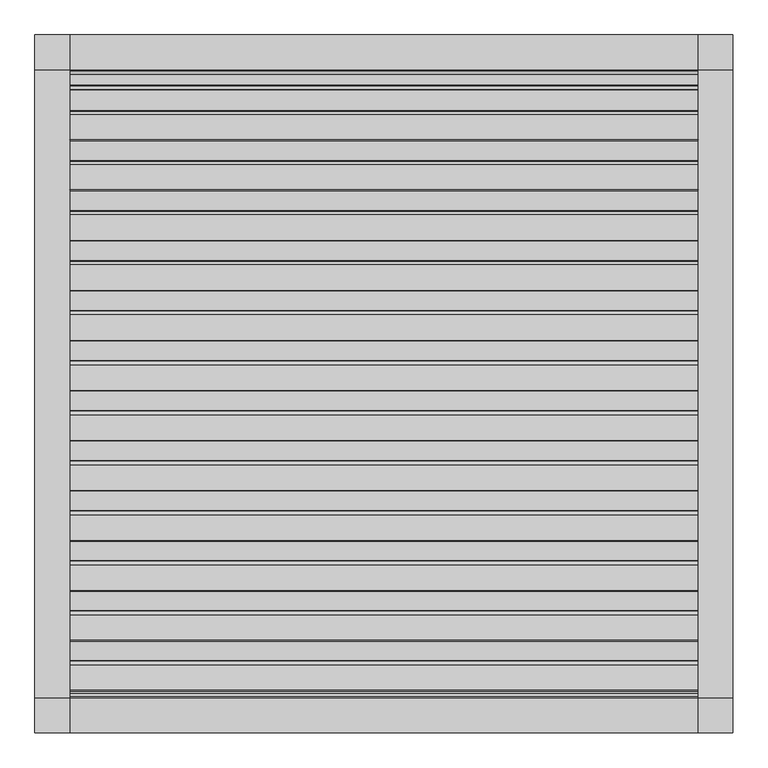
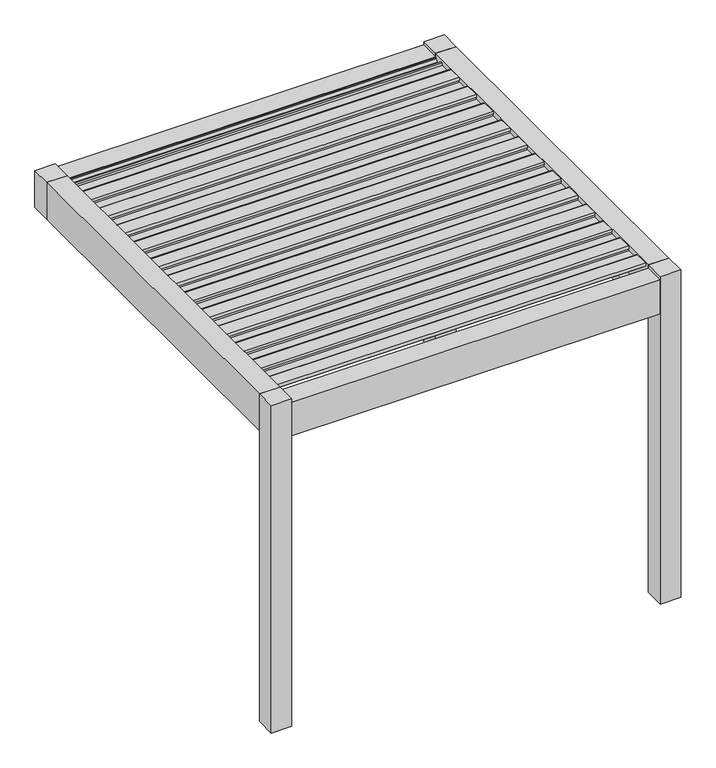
"""IFC4 building model written with IfcOpenShell, lengths in millimetres: proxy geometry, Renson_Amani_Patio_Cover : Renson_Amani_Patio_Cover."""

import ifcopenshell
import ifcopenshell.guid

model = None  # the IFC model being written
_history = None  # IfcOwnerHistory: only IFC2X3 demands one
_inside = {}  # id of a spatial element -> (the spatial element, [elements in it])
_under = {}  # id of a project, library or spatial element -> (it, [spatial elements below it])
_declared = {}  # id of a project -> (the project, [libraries it declares])
_typed = {}  # id of a type object -> (the type object, [elements of that type])
_made_of = {}  # id of a material, layer set ... -> (it, [elements and type objects made of it])


def new_model(schema):
    """Start an empty IFC model of exactly this schema.

    Asked for "IFC4X3", IfcOpenShell would pick the latest addendum, in which some entities
    have other attributes; the version numbers below select the first issue.
    IFC2X3 requires an IfcOwnerHistory on every rooted entity: one is made here for all.
    """
    global model, _history
    if schema == "IFC4X3":
        model = ifcopenshell.file(schema_version=(4, 3, 0, 0))
    else:
        model = ifcopenshell.file(schema=schema)
    _inside.clear()
    _under.clear()
    _declared.clear()
    _typed.clear()
    _made_of.clear()
    _history = None
    if model.schema == "IFC2X3":
        org = make("IfcOrganization", Name="unknown")
        user = make(
            "IfcPersonAndOrganization",
            ThePerson=make("IfcPerson", FamilyName="unknown"),
            TheOrganization=org,
        )
        app = make(
            "IfcApplication",
            ApplicationDeveloper=org,
            Version="unknown",
            ApplicationFullName="unknown",
            ApplicationIdentifier="unknown",
        )
        _history = make(
            "IfcOwnerHistory",
            OwningUser=user,
            OwningApplication=app,
            ChangeAction="ADDED",
            CreationDate=0,
        )
    return model


def make(cls, **values):
    """One entity of the class cls with the attributes given. An attribute that is None is left unset."""
    return model.create_entity(
        cls, **{name: value for name, value in values.items() if value is not None}
    )


def rooted(cls, **values):
    """An entity with a GlobalId (a new one), such as an element, a storey or a relation."""
    return make(cls, GlobalId=ifcopenshell.guid.new(), OwnerHistory=_history, **values)


def si_unit(unit_type, name, prefix=None):
    """IfcSIUnit, for example si_unit("LENGTHUNIT", "METRE", prefix="MILLI")."""
    return make("IfcSIUnit", UnitType=unit_type, Prefix=prefix, Name=name)


def assignment(units):
    """IfcUnitAssignment: the units of a project."""
    return None if units is None else make("IfcUnitAssignment", Units=units)


def point(xyz):
    """IfcCartesianPoint."""
    return None if xyz is None else make("IfcCartesianPoint", Coordinates=xyz)


def direction(xyz):
    """IfcDirection."""
    return None if xyz is None else make("IfcDirection", DirectionRatios=xyz)


def frame(location, z_axis=None, x_axis=None):
    """IfcAxis2Placement3D, a coordinate frame: its origin and axes. An axis left out is left unset."""
    return make(
        "IfcAxis2Placement3D",
        Location=point(location),
        Axis=direction(z_axis),
        RefDirection=direction(x_axis),
    )


def frame_2d(location, x_axis=None):
    """IfcAxis2Placement2D, a coordinate frame in the plane: its origin and x axis."""
    return make(
        "IfcAxis2Placement2D", Location=point(location), RefDirection=direction(x_axis)
    )


def origin():
    """The frame at (0, 0, 0) with its axes left unset."""
    return frame((0.0, 0.0, 0.0))


def origin_with_axes():
    """The frame at (0, 0, 0) with the z axis (0, 0, 1) and the x axis (1, 0, 0) written out."""
    return frame((0.0, 0.0, 0.0), z_axis=(0.0, 0.0, 1.0), x_axis=(1.0, 0.0, 0.0))


def place(relative_to, where):
    """IfcLocalPlacement: puts the frame where relative to a parent placement (None: the world)."""
    return make(
        "IfcLocalPlacement", PlacementRelTo=relative_to, RelativePlacement=where
    )


def context(
    kind, dimensions, precision=None, world=None, true_north=None, identifier=None
):
    """IfcGeometricRepresentationContext, for example the 3D "Model" context."""
    return make(
        "IfcGeometricRepresentationContext",
        ContextIdentifier=identifier,
        ContextType=kind,
        CoordinateSpaceDimension=dimensions,
        Precision=precision,
        WorldCoordinateSystem=world,
        TrueNorth=true_north,
    )


def project(units=None, contexts=None):
    """IfcProject with its units and contexts."""
    return rooted(
        "IfcProject",
        Name="project",
        RepresentationContexts=contexts,
        UnitsInContext=assignment(units),
    )


def spatial(cls, under=None, at=None, **own):
    """A site, building, storey or space (cls), placed at a placement, below another one or the project."""
    s = rooted(cls, ObjectPlacement=at, **own)
    if under is not None:
        _under.setdefault(under.id(), (under, []))[1].append(s)
    return s


def polyline(points):
    """IfcPolyline through the points."""
    return make("IfcPolyline", Points=[point(p) for p in points])


def circle_curve(where, radius):
    """IfcCircle in the frame where."""
    return make("IfcCircle", Position=where, Radius=radius)


def trimmed(basis, trim1, trim2, sense, master):
    """IfcTrimmedCurve: the piece of a basis curve between two trims."""
    return make(
        "IfcTrimmedCurve",
        BasisCurve=basis,
        Trim1=trim1,
        Trim2=trim2,
        SenseAgreement=sense,
        MasterRepresentation=master,
    )


def segment(curve, same_sense, transition):
    """IfcCompositeCurveSegment."""
    return make(
        "IfcCompositeCurveSegment",
        Transition=transition,
        SameSense=same_sense,
        ParentCurve=curve,
    )


def composite_curve(segments, self_intersect=None):
    """IfcCompositeCurve: segments joined end to end."""
    return make("IfcCompositeCurve", Segments=segments, SelfIntersect=self_intersect)


def outline(outer, holes=None, kind="AREA"):
    """IfcArbitraryClosedProfileDef: a profile drawn as a closed curve; with holes, ...WithVoids."""
    if holes is None:
        return make("IfcArbitraryClosedProfileDef", ProfileType=kind, OuterCurve=outer)
    return make(
        "IfcArbitraryProfileDefWithVoids",
        ProfileType=kind,
        OuterCurve=outer,
        InnerCurves=holes,
    )


def extrude(swept, where, along, depth):
    """IfcExtrudedAreaSolid: the profile swept, set in the frame where, extruded along a direction by depth."""
    return make(
        "IfcExtrudedAreaSolid",
        SweptArea=swept,
        Position=where,
        ExtrudedDirection=direction(along),
        Depth=depth,
    )


def shape(context_of_items, identifier, shape_type, items):
    """IfcShapeRepresentation: the items that make up one representation, for example the "Body"."""
    return make(
        "IfcShapeRepresentation",
        ContextOfItems=context_of_items,
        RepresentationIdentifier=identifier,
        RepresentationType=shape_type,
        Items=items,
    )


def source(mapping_origin, context_of_items, identifier, shape_type, items):
    """IfcRepresentationMap: a shape defined once, which mapped items show again and again."""
    return make(
        "IfcRepresentationMap",
        MappingOrigin=mapping_origin,
        MappedRepresentation=shape(context_of_items, identifier, shape_type, items),
    )


def transform(
    local_origin,
    x_axis=None,
    y_axis=None,
    z_axis=None,
    scale=None,
    scale2=None,
    scale3=None,
    uniform=True,
):
    """IfcCartesianTransformationOperator3D, or its non-uniform kind. x_axis, y_axis, z_axis: its Axis1, 2, 3."""
    if uniform:
        return make(
            "IfcCartesianTransformationOperator3D",
            Axis1=direction(x_axis),
            Axis2=direction(y_axis),
            LocalOrigin=point(local_origin),
            Scale=scale,
            Axis3=direction(z_axis),
        )
    return make(
        "IfcCartesianTransformationOperator3DnonUniform",
        Axis1=direction(x_axis),
        Axis2=direction(y_axis),
        LocalOrigin=point(local_origin),
        Scale=scale,
        Axis3=direction(z_axis),
        Scale2=scale2,
        Scale3=scale3,
    )


def mapped(mapping_source, mapping_target):
    """IfcMappedItem: shows the shape of a source again, moved by a transform."""
    return make(
        "IfcMappedItem", MappingSource=mapping_source, MappingTarget=mapping_target
    )


def made_of(thing, what):
    """Note that an element or type object is made of a material, layer set ...; save() writes the relation."""
    if what is not None:
        _made_of.setdefault(what.id(), (what, []))[1].append(thing)
    return thing


def element(
    cls,
    number,
    at=None,
    inside=None,
    cuts=None,
    type_object=None,
    material=None,
    context=None,
    identifier="Body",
    shape_type=None,
    held_by="IfcProductDefinitionShape",
    body=None,
    shapes=None,
    **own,
):
    """One element of the class cls, such as IfcWall. Its Tag is "e" and its number.

    at: its placement. inside: the storey or other place that contains it. cuts: it is an
    opening in that element (IfcRelVoidsElement). A single representation is given by context,
    identifier, shape_type and body (its items); several are given by shapes. held_by: the class
    of the entity that holds the representations. save() writes the other relations.
    """
    e = rooted(cls, Tag="e%d" % number, ObjectPlacement=at, **own)
    if body is not None:
        shapes = [shape(context, identifier, shape_type, body)]
    if shapes is not None:
        e.Representation = make(held_by, Representations=shapes)
    if inside is not None:
        _inside.setdefault(inside.id(), (inside, []))[1].append(e)
    if cuts is not None:
        rooted(
            "IfcRelVoidsElement", RelatingBuildingElement=cuts, RelatedOpeningElement=e
        )
    if type_object is not None:
        _typed.setdefault(type_object.id(), (type_object, []))[1].append(e)
    return made_of(e, material)


def aggregate(whole, parts):
    """IfcRelAggregates: a whole, such as a stair, and the parts it consists of."""
    return rooted("IfcRelAggregates", RelatingObject=whole, RelatedObjects=parts)


def save(model, path):
    """Write the relations noted so far, then the file.

    IfcRelAggregates (storeys below a building ...), IfcRelContainedInSpatialStructure (elements
    in a storey), IfcRelDefinesByType, IfcRelAssociatesMaterial and IfcRelDeclares: one each for
    every whole, place, type object, material and project.
    """
    for whole, parts in _under.values():
        aggregate(whole, parts)
    for where, things in _inside.values():
        rooted(
            "IfcRelContainedInSpatialStructure",
            RelatedElements=things,
            RelatingStructure=where,
        )
    for kind, things in _typed.values():
        rooted("IfcRelDefinesByType", RelatedObjects=things, RelatingType=kind)
    for what, things in _made_of.values():
        rooted("IfcRelAssociatesMaterial", RelatedObjects=things, RelatingMaterial=what)
    for by, libraries in _declared.values():
        rooted("IfcRelDeclares", RelatingContext=by, RelatedDefinitions=libraries)
    model.write(path)


def generic_models_59e5db6b(model_context):
    return source(origin(), model_context, "Body", "SweptSolid", [
        extrude(outline(composite_curve([segment(polyline([(-1073.7289238, 2483.35), (-1076.1490335, 2511.01198), (-1104.984284, 2512.3970364), (-1101.5469529, 2531.8911096), (-991.549838, 2526.6075693)]), True, "CONTINUOUS"), segment(trimmed(circle_curve(frame_2d((-992.26951, 2511.6248435)), 15.0), [point((-991.549838, 2526.6075693))], [point((-977.4973937, 2514.2295662))], False, "CARTESIAN"), True, "CONTINUOUS"), segment(polyline([(-977.4973937, 2514.2295662), (-974.1067023, 2495.0), (-886.3709263, 2495.0), (-883.3594689, 2512.0788237), (-868.0824984, 2511.3450182), (-865.6332517, 2483.35), (-1073.7289238, 2483.35)]), True, "CONTINUOUS")], self_intersect=False)), frame((-1350.0, 0.0, 0.0), z_axis=(1.0, 0.0, 0.0), x_axis=(0.0, 1.0, 0.0)), (0.0, 0.0, 1.0), 2700.0),
        extrude(outline(composite_curve([segment(polyline([(-858.7132078, 2483.35), (-861.1333174, 2511.01198), (-889.9685679, 2512.3970364), (-886.5312368, 2531.8911096), (-776.534122, 2526.6075693)]), True, "CONTINUOUS"), segment(trimmed(circle_curve(frame_2d((-777.2537939, 2511.6248435)), 15.0), [point((-776.534122, 2526.6075693))], [point((-762.4816776, 2514.2295662))], False, "CARTESIAN"), True, "CONTINUOUS"), segment(polyline([(-762.4816776, 2514.2295662), (-759.0909863, 2495.0), (-671.3552102, 2495.0), (-668.3437528, 2512.0788237), (-653.0667824, 2511.3450182), (-650.6175356, 2483.35), (-858.7132078, 2483.35)]), True, "CONTINUOUS")], self_intersect=False)), frame((-1350.0, 0.0, 0.0), z_axis=(1.0, 0.0, 0.0), x_axis=(0.0, 1.0, 0.0)), (0.0, 0.0, 1.0), 2700.0),
        extrude(outline(composite_curve([segment(polyline([(-643.6974917, 2483.35), (-646.1176014, 2511.01198), (-674.9528519, 2512.3970364), (-671.5155208, 2531.8911096), (-561.5184059, 2526.6075693)]), True, "CONTINUOUS"), segment(trimmed(circle_curve(frame_2d((-562.2380779, 2511.6248435)), 15.0), [point((-561.5184059, 2526.6075693))], [point((-547.4659616, 2514.2295662))], False, "CARTESIAN"), True, "CONTINUOUS"), segment(polyline([(-547.4659616, 2514.2295662), (-544.0752702, 2495.0), (-456.3394942, 2495.0), (-453.3280368, 2512.0788237), (-438.0510663, 2511.3450182), (-435.6018196, 2483.35), (-643.6974917, 2483.35)]), True, "CONTINUOUS")], self_intersect=False)), frame((-1350.0, 0.0, 0.0), z_axis=(1.0, 0.0, 0.0), x_axis=(0.0, 1.0, 0.0)), (0.0, 0.0, 1.0), 2700.0),
        extrude(outline(composite_curve([segment(polyline([(-428.6817757, 2483.35), (-431.1018854, 2511.01198), (-459.9371358, 2512.3970364), (-456.4998047, 2531.8911096), (-346.5026899, 2526.6075693)]), True, "CONTINUOUS"), segment(trimmed(circle_curve(frame_2d((-347.2223618, 2511.6248435)), 15.0), [point((-346.5026899, 2526.6075693))], [point((-332.4502455, 2514.2295662))], False, "CARTESIAN"), True, "CONTINUOUS"), segment(polyline([(-332.4502455, 2514.2295662), (-329.0595542, 2495.0), (-241.3237782, 2495.0), (-238.3123207, 2512.0788237), (-223.0353503, 2511.3450182), (-220.5861035, 2483.35), (-428.6817757, 2483.35)]), True, "CONTINUOUS")], self_intersect=False)), frame((-1350.0, 0.0, 0.0), z_axis=(1.0, 0.0, 0.0), x_axis=(0.0, 1.0, 0.0)), (0.0, 0.0, 1.0), 2700.0),
        extrude(outline(composite_curve([segment(polyline([(-213.6660597, 2483.35), (-216.0861693, 2511.01198), (-244.9214198, 2512.3970364), (-241.4840887, 2531.8911096), (-131.4869738, 2526.6075693)]), True, "CONTINUOUS"), segment(trimmed(circle_curve(frame_2d((-132.2066458, 2511.6248435)), 15.0), [point((-131.4869738, 2526.6075693))], [point((-117.4345295, 2514.2295662))], False, "CARTESIAN"), True, "CONTINUOUS"), segment(polyline([(-117.4345295, 2514.2295662), (-114.0438381, 2495.0), (-26.3080621, 2495.0), (-23.2966047, 2512.0788237), (-8.0196342, 2511.3450182), (-5.5703875, 2483.35), (-213.6660597, 2483.35)]), True, "CONTINUOUS")], self_intersect=False)), frame((-1350.0, 0.0, 0.0), z_axis=(1.0, 0.0, 0.0), x_axis=(0.0, 1.0, 0.0)), (0.0, 0.0, 1.0), 2700.0),
        extrude(outline(composite_curve([segment(polyline([(1.3496564, 2483.35), (-1.0704533, 2511.01198), (-29.9057037, 2512.3970364), (-26.4683726, 2531.8911096), (83.5287422, 2526.6075693)]), True, "CONTINUOUS"), segment(trimmed(circle_curve(frame_2d((82.8090703, 2511.6248435)), 15.0), [point((83.5287422, 2526.6075693))], [point((97.5811866, 2514.2295662))], False, "CARTESIAN"), True, "CONTINUOUS"), segment(polyline([(97.5811866, 2514.2295662), (100.9718779, 2495.0), (188.7076539, 2495.0), (191.7191114, 2512.0788237), (206.9960818, 2511.3450182), (209.4453286, 2483.35), (1.3496564, 2483.35)]), True, "CONTINUOUS")], self_intersect=False)), frame((-1350.0, 0.0, 0.0), z_axis=(1.0, 0.0, 0.0), x_axis=(0.0, 1.0, 0.0)), (0.0, 0.0, 1.0), 2700.0),
        extrude(outline(composite_curve([segment(polyline([(216.3653724, 2483.35), (213.9452628, 2511.01198), (185.1100123, 2512.3970364), (188.5473434, 2531.8911096), (298.5444582, 2526.6075693)]), True, "CONTINUOUS"), segment(trimmed(circle_curve(frame_2d((297.8247863, 2511.6248435)), 15.0), [point((298.5444582, 2526.6075693))], [point((312.5969026, 2514.2295662))], False, "CARTESIAN"), True, "CONTINUOUS"), segment(polyline([(312.5969026, 2514.2295662), (315.987594, 2495.0), (403.72337, 2495.0), (406.7348274, 2512.0788237), (422.0117979, 2511.3450182), (424.4610446, 2483.35), (216.3653724, 2483.35)]), True, "CONTINUOUS")], self_intersect=False)), frame((-1350.0, 0.0, 0.0), z_axis=(1.0, 0.0, 0.0), x_axis=(0.0, 1.0, 0.0)), (0.0, 0.0, 1.0), 2700.0),
        extrude(outline(composite_curve([segment(polyline([(431.3810885, 2483.35), (428.9609788, 2511.01198), (400.1257284, 2512.3970364), (403.5630594, 2531.8911096), (513.5601743, 2526.6075693)]), True, "CONTINUOUS"), segment(trimmed(circle_curve(frame_2d((512.8405024, 2511.6248435)), 15.0), [point((513.5601743, 2526.6075693))], [point((527.6126187, 2514.2295662))], False, "CARTESIAN"), True, "CONTINUOUS"), segment(polyline([(527.6126187, 2514.2295662), (531.00331, 2495.0), (618.739086, 2495.0), (621.7505434, 2512.0788237), (637.0275139, 2511.3450182), (639.4767606, 2483.35), (431.3810885, 2483.35)]), True, "CONTINUOUS")], self_intersect=False)), frame((-1350.0, 0.0, 0.0), z_axis=(1.0, 0.0, 0.0), x_axis=(0.0, 1.0, 0.0)), (0.0, 0.0, 1.0), 2700.0),
        extrude(outline(composite_curve([segment(polyline([(646.3968045, 2483.35), (643.9766949, 2511.01198), (615.1414444, 2512.3970364), (618.5787755, 2531.8911096), (728.5758903, 2526.6075693)]), True, "CONTINUOUS"), segment(trimmed(circle_curve(frame_2d((727.8562184, 2511.6248435)), 15.0), [point((728.5758903, 2526.6075693))], [point((742.6283347, 2514.2295662))], False, "CARTESIAN"), True, "CONTINUOUS"), segment(polyline([(742.6283347, 2514.2295662), (746.019026, 2495.0), (833.7548021, 2495.0), (836.7662595, 2512.0788237), (852.04323, 2511.3450182), (854.4924767, 2483.35), (646.3968045, 2483.35)]), True, "CONTINUOUS")], self_intersect=False)), frame((-1350.0, 0.0, 0.0), z_axis=(1.0, 0.0, 0.0), x_axis=(0.0, 1.0, 0.0)), (0.0, 0.0, 1.0), 2700.0),
        extrude(outline(composite_curve([segment(polyline([(861.4125206, 2483.35), (858.9924109, 2511.01198), (830.1571605, 2512.3970364), (833.5944915, 2531.8911096), (943.5916064, 2526.6075693)]), True, "CONTINUOUS"), segment(trimmed(circle_curve(frame_2d((942.8719345, 2511.6248435)), 15.0), [point((943.5916064, 2526.6075693))], [point((957.6440508, 2514.2295662))], False, "CARTESIAN"), True, "CONTINUOUS"), segment(polyline([(957.6440508, 2514.2295662), (961.0347421, 2495.0), (1048.7705181, 2495.0), (1051.7819755, 2512.0788237), (1067.058946, 2511.3450182), (1069.5081927, 2483.35), (861.4125206, 2483.35)]), True, "CONTINUOUS")], self_intersect=False)), frame((-1350.0, 0.0, 0.0), z_axis=(1.0, 0.0, 0.0), x_axis=(0.0, 1.0, 0.0)), (0.0, 0.0, 1.0), 2700.0),
        extrude(outline(composite_curve([segment(polyline([(-1288.7446399, 2483.35), (-1291.1647495, 2511.01198), (-1320.0, 2512.3970364), (-1316.5626689, 2531.8911096), (-1206.5655541, 2526.6075693)]), True, "CONTINUOUS"), segment(trimmed(circle_curve(frame_2d((-1207.285226, 2511.6248435)), 15.0), [point((-1206.5655541, 2526.6075693))], [point((-1192.5131097, 2514.2295662))], False, "CARTESIAN"), True, "CONTINUOUS"), segment(polyline([(-1192.5131097, 2514.2295662), (-1189.1224184, 2495.0), (-1101.3866423, 2495.0), (-1098.3751849, 2512.0788237), (-1083.0982144, 2511.3450182), (-1080.6489677, 2483.35), (-1288.7446399, 2483.35)]), True, "CONTINUOUS")], self_intersect=False)), frame((-1350.0, 0.0, 0.0), z_axis=(1.0, 0.0, 0.0), x_axis=(0.0, 1.0, 0.0)), (0.0, 0.0, 1.0), 2700.0),
        extrude(outline(composite_curve([segment(polyline([(1076.4282366, 2483.35), (1074.008127, 2511.01198), (1045.1728765, 2512.3970364), (1048.6102076, 2531.8911096), (1158.6073224, 2526.6075693)]), True, "CONTINUOUS"), segment(trimmed(circle_curve(frame_2d((1157.8876505, 2511.6248435)), 15.0), [point((1158.6073224, 2526.6075693))], [point((1172.6597668, 2514.2295662))], False, "CARTESIAN"), True, "CONTINUOUS"), segment(polyline([(1172.6597668, 2514.2295662), (1176.0504581, 2495.0), (1263.7862342, 2495.0), (1266.7976916, 2512.0788237), (1282.0746621, 2511.3450182), (1284.5239088, 2483.35), (1076.4282366, 2483.35)]), True, "CONTINUOUS")], self_intersect=False)), frame((-1350.0, 0.0, 0.0), z_axis=(1.0, 0.0, 0.0), x_axis=(0.0, 1.0, 0.0)), (0.0, 0.0, 1.0), 2700.0),
        extrude(outline(polyline([(-1350.0, 1500.0), (-1350.0, 1350.0), (-1500.0, 1350.0), (-1500.0, 1500.0), (-1350.0, 1500.0)])), frame((0.0, 0.0, 2250.0), z_axis=(0.0, 0.0, 1.0), x_axis=(1.0, 0.0, 0.0)), (0.0, 0.0, 1.0), 285.0),
        extrude(outline(polyline([(1500.0, -1350.0), (1500.0, -1500.0), (1350.0, -1500.0), (1350.0, -1350.0), (1500.0, -1350.0)])), origin_with_axes(), (0.0, 0.0, 1.0), 2535.0),
        extrude(outline(polyline([(1500.0, 1500.0), (1500.0, 1350.0), (1350.0, 1350.0), (1350.0, 1500.0), (1500.0, 1500.0)])), origin_with_axes(), (0.0, 0.0, 1.0), 2535.0),
        extrude(outline(polyline([(-1350.0, -1350.0), (-1350.0, -1500.0), (-1500.0, -1500.0), (-1500.0, -1350.0), (-1350.0, -1350.0)])), origin_with_axes(), (0.0, 0.0, 1.0), 2535.0),
        extrude(outline(polyline([(1350.0, 2466.6559373), (1290.0, 2466.6559373), (1286.2487113, 2480.6555802), (1329.5940945, 2480.6555802), (1345.0, 2496.400763), (1345.0, 2504.2449277), (1350.0, 2504.6823598), (1350.0, 2466.6559373)])), frame((-1350.0, 0.0, 0.0), z_axis=(1.0, 0.0, 0.0), x_axis=(0.0, 1.0, 0.0)), (0.0, 0.0, 1.0), 2700.0),
        extrude(outline(polyline([(-1350.0, 2510.0), (-1350.0, 2479.6823598), (-1345.0, 2479.2449277), (-1345.0, 2471.400763), (-1329.2544156, 2455.6555802), (-1319.9090324, 2455.6555802), (-1323.6603211, 2441.6559373), (-1350.0, 2441.6559373), (-1350.0, 2250.0), (-1500.0, 2250.0), (-1500.0, 2510.0), (-1350.0, 2510.0)])), frame((-1350.0, 0.0, 0.0), z_axis=(1.0, 0.0, 0.0), x_axis=(0.0, 1.0, 0.0)), (0.0, 0.0, 1.0), 2700.0),
        extrude(outline(polyline([(1350.0, 1500.0), (1350.0, 1350.0), (-1350.0, 1350.0), (-1350.0, 1500.0), (1350.0, 1500.0)])), frame((0.0, 0.0, 2250.0), z_axis=(0.0, 0.0, 1.0), x_axis=(1.0, 0.0, 0.0)), (0.0, 0.0, 1.0), 260.0),
        extrude(outline(polyline([(2535.0, -1350.0), (2535.0, -1500.0), (2250.0, -1500.0), (2250.0, -1280.0000001), (2322.0, -1280.0000001), (2322.0, -1350.0), (2535.0, -1350.0)])), frame((0.0, -1350.0, 0.0), z_axis=(0.0, 1.0, 0.0), x_axis=(0.0, 0.0, 1.0)), (0.0, 0.0, 1.0), 2700.0),
        extrude(outline(polyline([(2250.0, 1500.0), (2535.0, 1500.0), (2535.0, 1350.0), (2322.0, 1350.0), (2322.0, 1280.0000001), (2250.0, 1280.0000001), (2250.0, 1500.0)])), frame((0.0, -1350.0, 0.0), z_axis=(0.0, 1.0, 0.0), x_axis=(0.0, 0.0, 1.0)), (0.0, 0.0, 1.0), 2700.0),
    ])


if __name__ == "__main__":
    model = new_model("IFC4")
    model_context = context("Model", 3, world=origin())
    ifc_project = project(units=[si_unit("LENGTHUNIT", "METRE", prefix="MILLI")], contexts=[model_context])
    site = spatial("IfcSite", under=ifc_project)
    building = spatial("IfcBuilding", under=site)
    placement = place(None, origin())
    generic_models_shape = generic_models_59e5db6b(model_context)
    element("IfcBuildingElementProxy", 1, Name="Renson_Amani_Patio_Cover : Renson_Amani_Patio_Cover", ObjectType="Renson_Amani_Patio_Cover : Renson_Amani_Patio_Cover", at=placement, inside=building, context=model_context, shape_type="MappedRepresentation", body=[
        mapped(generic_models_shape, transform((0.0, 0.0, 0.0), x_axis=(1.0, 0.0, 0.0), y_axis=(0.0, 1.0, 0.0), z_axis=(0.0, 0.0, 1.0))),
    ])
    save(model, "model.ifc")
